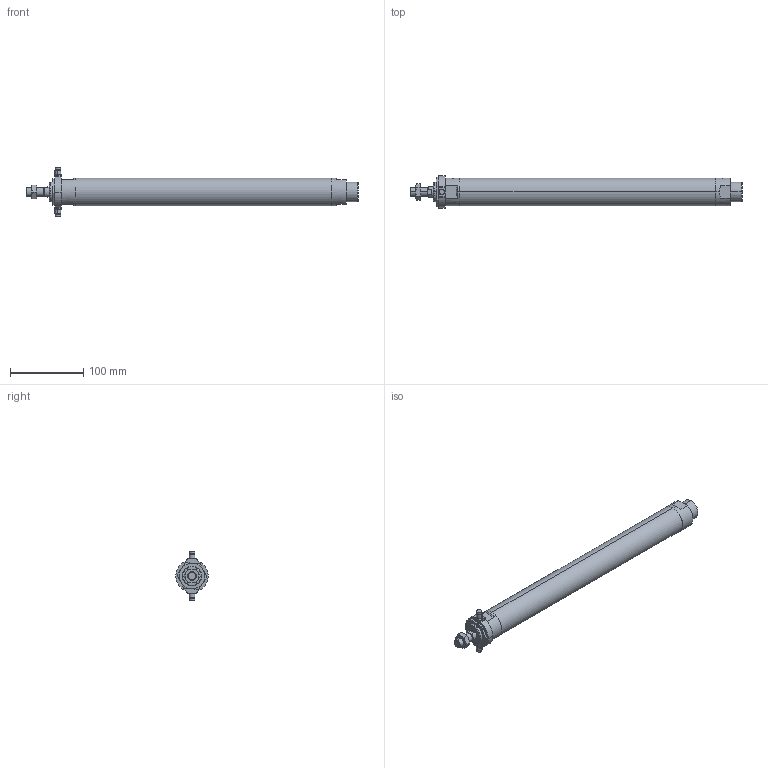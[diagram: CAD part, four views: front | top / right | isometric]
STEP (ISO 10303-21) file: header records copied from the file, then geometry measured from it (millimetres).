
FILE_DESCRIPTION (( 'STEP AP203' ), '1' );
FILE_NAME ('J#2-32-300-T.STEP', '2016-03-08T07:52:45', ( '' ), ( '' ), 'SwSTEP 2.0', 'SolidWorks 2014', '' );
FILE_SCHEMA (( 'CONFIG_CONTROL_DESIGN' ));
Length unit declared in the file: millimetre
Products named in the file (5): J#2-32-T; J#2-32-300-T; J#2-32-300
Assembly tree (4 placements, depth 2):
  J#2-32-300-T
    J#2-32-300
    (unnamed)
    (unnamed)
    J#2-32-T
Bounding box: 453 x 44 x 66 mm (x, y, z)
Volume: 463973.4 mm3; surface area: 60628 mm2
Topology: 4 solids, 4 shells, 133 faces, 303 edges, 183 vertices
Faces by surface type: cylinder 43, plane 43, torus 24, cone 23
Entity records: 4649 total; most frequent: CARTESIAN_POINT 1181, DIRECTION 640, ORIENTED_EDGE 598, EDGE_CURVE 299, AXIS2_PLACEMENT_3D 264, VERTEX_POINT 183, EDGE_LOOP 148, ADVANCED_FACE 133
